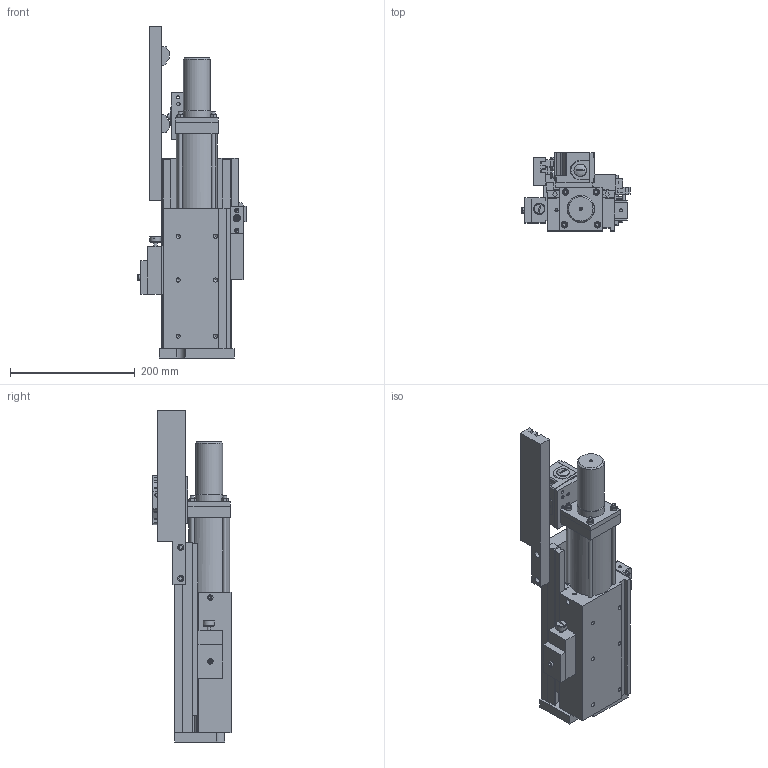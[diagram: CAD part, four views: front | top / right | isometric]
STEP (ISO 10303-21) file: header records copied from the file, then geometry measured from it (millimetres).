
FILE_DESCRIPTION((''),'2;1');
FILE_NAME('C:\VaultWork\Zeichnungen\Maßblätter\W60\W01479-2-0 Maßblatt W60-80 EA EE.stp','2010-06-23T08:52:04',('Test'),(''),'Autodesk Inventor 2008','Autodesk Inventor 2008','');
FILE_SCHEMA(('AUTOMOTIVE_DESIGN { 1 0 10303 214 1 1 1 1 }'));
Length unit declared in the file: millimetre
Products named in the file (1): W01479-2-0 Maßblatt W60-80 EA EE
Bounding box: 174.05 x 125 x 532 mm (x, y, z)
Volume: 3791734.4 mm3; surface area: 396582.9 mm2
Topology: 17 solids, 17 shells, 776 faces, 1968 edges, 1280 vertices
Faces by surface type: plane 484, bspline 150, cylinder 79, cone 46, torus 16, sphere 1
Full cylindrical faces by diameter (mm): 1.6 x1, 4 x7, 5 x1, 5.5 x1, 5.9 x2, 6 x8, 6.6 x2, 7 x5, 8.5 x1, 9.98 x3, 10 x5, 15 x1, 18 x1, 20 x3, 43 x1, 44 x1, 66 x1
Entity records: 25817 total; most frequent: CARTESIAN_POINT 8247, ORIENTED_EDGE 3286, DIRECTION 3224, EDGE_CURVE 1643, VERTEX_POINT 1160, AXIS2_PLACEMENT_3D 1095, EDGE_LOOP 1089, VECTOR 1034
